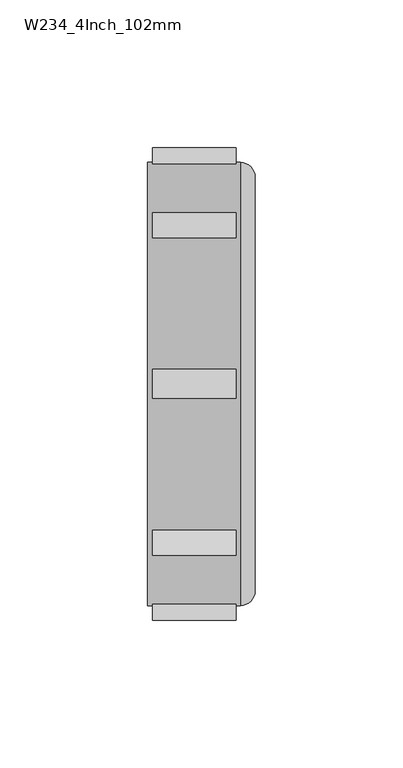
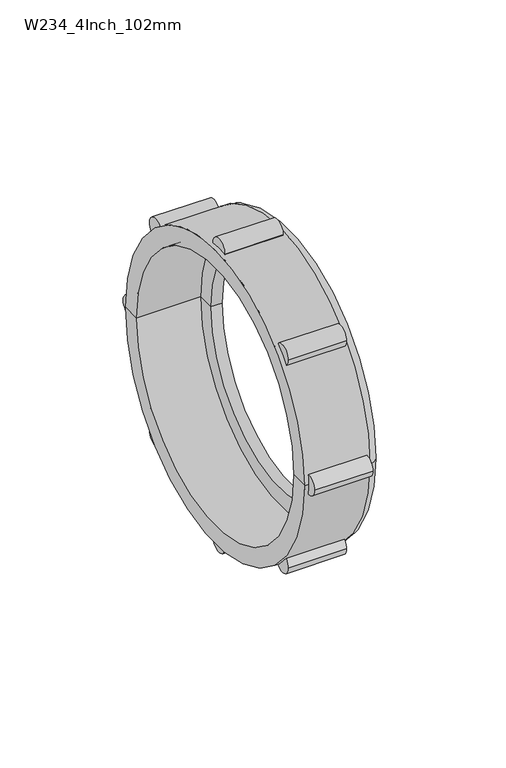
"""IFC4 building model written with IfcOpenShell, lengths in millimetres: pipe fitting geometry, Durapipe_PipeFitting_VulcatheneMechanical_Nut_W23 : W234_4Inch_102mm."""

from ifc_helpers import new_model, si_unit, point, frame, frame_2d, origin, place, context, project, spatial, polyline, circle_curve, ellipse_curve, trimmed, segment, composite_curve, outline, extrude, source, transform, mapped, element, save
from ifc_brep_helpers import plane_surface, cylinder_surface, revolved_surface, advanced_brep


def w234_4inch_102mm_b929236d(model_context):
    return source(origin(), model_context, "Body", "SolidModel", [
        advanced_brep(
        [(-19.15, 75.0, 0.0), (12.35, 75.0, 0.0), (12.35, -75.0, 0.0), (-19.15, -75.0, 0.0), (-19.15, 66.0, 0.0), (-19.15, -66.0, 0.0), (17.35, 70.0, 0.0), (17.35, 57.5, 0.0), (17.35, -57.5, 0.0), (17.35, -70.0, 0.0), (11.85, 66.0, 0.0), (11.85, -66.0, 0.0), (11.85, 57.5, 0.0), (11.85, -57.5, 0.0)],
        [
            (0, 1),
            (1, 2, circle_curve(frame((12.35, 0.0, 0.0), z_axis=(-1.0, 0.0, 0.0), x_axis=(0.0, -1.0, 0.0)), 75.0)),
            (2, 3),
            (3, 0, circle_curve(frame((-19.15, 0.0, 0.0), z_axis=(1.0, 0.0, 0.0), x_axis=(0.0, -1.0, 0.0)), 75.0)),
            (2, 1, circle_curve(frame((12.35, 0.0, 0.0), z_axis=(-1.0, 0.0, 0.0), x_axis=(0.0, -1.0, 0.0)), 75.0)),
            (0, 3, circle_curve(frame((-19.15, 0.0, 0.0), z_axis=(1.0, 0.0, 0.0), x_axis=(0.0, -1.0, 0.0)), 75.0)),
            (4, 0),
            (3, 5),
            (5, 4, circle_curve(frame((-19.15, 0.0, 0.0), z_axis=(1.0, 0.0, 0.0), x_axis=(0.0, -1.0, 0.0)), 66.0)),
            (4, 5, circle_curve(frame((-19.15, 0.0, 0.0), z_axis=(1.0, 0.0, 0.0), x_axis=(0.0, -1.0, 0.0)), 66.0)),
            (6, 7),
            (7, 8, circle_curve(frame((17.35, 0.0, 0.0), z_axis=(-1.0, 0.0, 0.0), x_axis=(0.0, -1.0, 0.0)), 57.5)),
            (8, 9),
            (9, 6, circle_curve(frame((17.35, 0.0, 0.0), z_axis=(1.0, 0.0, 0.0), x_axis=(0.0, -1.0, 0.0)), 70.0)),
            (8, 7, circle_curve(frame((17.35, 0.0, 0.0), z_axis=(-1.0, 0.0, 0.0), x_axis=(0.0, -1.0, 0.0)), 57.5)),
            (6, 9, circle_curve(frame((17.35, 0.0, 0.0), z_axis=(1.0, 0.0, 0.0), x_axis=(0.0, -1.0, 0.0)), 70.0)),
            (1, 6, circle_curve(frame((12.35, 70.0, 0.0), z_axis=(0.0, 0.0, -1.0), x_axis=(1.0, 0.0, 0.0)), 5.0)),
            (9, 2, circle_curve(frame((12.35, -70.0, 0.0), z_axis=(0.0, 0.0, -1.0), x_axis=(1.0, 0.0, 0.0)), 5.0)),
            (10, 4),
            (5, 11),
            (11, 10, circle_curve(frame((11.85, 0.0, 0.0), z_axis=(1.0, 0.0, 0.0), x_axis=(0.0, -1.0, 0.0)), 66.0)),
            (10, 11, circle_curve(frame((11.85, 0.0, 0.0), z_axis=(1.0, 0.0, 0.0), x_axis=(0.0, -1.0, 0.0)), 66.0)),
            (12, 10),
            (11, 13),
            (13, 12, circle_curve(frame((11.85, 0.0, 0.0), z_axis=(1.0, 0.0, 0.0), x_axis=(0.0, -1.0, 0.0)), 57.5)),
            (12, 13, circle_curve(frame((11.85, 0.0, 0.0), z_axis=(1.0, 0.0, 0.0), x_axis=(0.0, -1.0, 0.0)), 57.5)),
            (7, 12),
            (13, 8),
        ],
        [
            cylinder_surface(frame((1578.1518184, 0.0, 0.0), z_axis=(-1.0, 0.0, 0.0), x_axis=(0.0, -1.0, 0.0)), 75.0),
            plane_surface(frame((-19.15, 0.0, 0.0), z_axis=(-1.0, 0.0, 0.0), x_axis=(0.0, -1.0, 0.0))),
            plane_surface(frame((17.35, 0.0, 0.0), z_axis=(1.0, 0.0, 0.0), x_axis=(0.0, -1.0, 0.0))),
            revolved_surface(trimmed(ellipse_curve(frame((12.35, -70.0, 0.0), z_axis=(0.0, 0.0, -1.0), x_axis=(1.0, 0.0, 0.0)), 5.0, 5.0), [point((17.35, -70.0, 0.0))], [point((12.35, -75.0, 0.0))], True, "CARTESIAN"), (1578.1518184, 0.0, 0.0), (-1.0, 0.0, 0.0)),
            revolved_surface(polyline([(-19.15000000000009, -66.0, 0.0), (11.849999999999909, -66.0, 0.0)]), (1578.1518184, 0.0, 0.0), (-1.0, 0.0, 0.0)),
            plane_surface(frame((11.85, 0.0, 0.0), z_axis=(-1.0, 0.0, 0.0), x_axis=(0.0, -1.0, 0.0))),
            revolved_surface(polyline([(11.849999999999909, -57.5, 0.0), (17.34999999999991, -57.5, 0.0)]), (1578.1518184, 0.0, 0.0), (-1.0, 0.0, 0.0)),
        ],
        [
            (0, [[1, 2, 3, 4]]),
            (0, [[-3, 5, -1, 6]]),
            (1, [[7, -4, 8, 9]]),
            (1, [[-8, -6, -7, 10]]),
            (2, [[11, 12, 13, 14]]),
            (2, [[-13, 15, -11, 16]]),
            (3, [[17, -14, 18, -2]]),
            (3, [[-18, -16, -17, -5]]),
            (4, [[19, -9, 20, 21]]),
            (4, [[-20, -10, -19, 22]]),
            (5, [[23, -21, 24, 25]]),
            (5, [[-24, -22, -23, 26]]),
            (6, [[27, -25, 28, -12]]),
            (6, [[-28, -26, -27, -15]]),
        ],
    ),
        extrude(outline(composite_curve([segment(trimmed(circle_curve(frame_2d((0.0, 75.0)), 5.0), [point((5.0, 75.0))], [point((-5.0, 75.0))], False, "CARTESIAN"), True, "CONTINUOUS"), segment(trimmed(circle_curve(frame_2d((0.0, 75.0)), 5.0), [point((-5.0, 75.0))], [point((5.0, 75.0))], False, "CARTESIAN"), True, "CONTINUOUS")], self_intersect=False)), frame((-17.35, 0.0, 0.0), z_axis=(1.0, 0.0, 0.0), x_axis=(0.0, 1.0, 0.0)), (0.0, 0.0, 1.0), 28.2),
        extrude(outline(composite_curve([segment(trimmed(circle_curve(frame_2d((-53.0330086, 53.0330086)), 5.0), [point((-48.0330086, 53.0330086))], [point((-58.0330086, 53.0330086))], False, "CARTESIAN"), True, "CONTINUOUS"), segment(trimmed(circle_curve(frame_2d((-53.0330086, 53.0330086)), 5.0), [point((-58.0330086, 53.0330086))], [point((-48.0330086, 53.0330086))], False, "CARTESIAN"), True, "CONTINUOUS")], self_intersect=False)), frame((-17.35, 0.0, 0.0), z_axis=(1.0, 0.0, 0.0), x_axis=(0.0, 1.0, 0.0)), (0.0, 0.0, 1.0), 28.2),
        extrude(outline(composite_curve([segment(trimmed(circle_curve(frame_2d((-75.0, 0.0)), 5.0), [point((-70.0, 0.0))], [point((-80.0, 0.0))], False, "CARTESIAN"), True, "CONTINUOUS"), segment(trimmed(circle_curve(frame_2d((-75.0, 0.0)), 5.0), [point((-80.0, 0.0))], [point((-70.0, 0.0))], False, "CARTESIAN"), True, "CONTINUOUS")], self_intersect=False)), frame((-17.35, 0.0, 0.0), z_axis=(1.0, 0.0, 0.0), x_axis=(0.0, 1.0, 0.0)), (0.0, 0.0, 1.0), 28.2),
        extrude(outline(composite_curve([segment(trimmed(circle_curve(frame_2d((-53.0330086, -53.0330086)), 5.0), [point((-48.0330086, -53.0330086))], [point((-58.0330086, -53.0330086))], False, "CARTESIAN"), True, "CONTINUOUS"), segment(trimmed(circle_curve(frame_2d((-53.0330086, -53.0330086)), 5.0), [point((-58.0330086, -53.0330086))], [point((-48.0330086, -53.0330086))], False, "CARTESIAN"), True, "CONTINUOUS")], self_intersect=False)), frame((-17.35, 0.0, 0.0), z_axis=(1.0, 0.0, 0.0), x_axis=(0.0, 1.0, 0.0)), (0.0, 0.0, 1.0), 28.2),
        extrude(outline(composite_curve([segment(trimmed(circle_curve(frame_2d((0.0, -75.0)), 5.0), [point((5.0, -75.0))], [point((-5.0, -75.0))], False, "CARTESIAN"), True, "CONTINUOUS"), segment(trimmed(circle_curve(frame_2d((0.0, -75.0)), 5.0), [point((-5.0, -75.0))], [point((5.0, -75.0))], False, "CARTESIAN"), True, "CONTINUOUS")], self_intersect=False)), frame((-17.35, 0.0, 0.0), z_axis=(1.0, 0.0, 0.0), x_axis=(0.0, 1.0, 0.0)), (0.0, 0.0, 1.0), 28.2),
        extrude(outline(composite_curve([segment(trimmed(circle_curve(frame_2d((53.0330086, -53.0330086)), 5.0), [point((58.0330086, -53.0330086))], [point((48.0330086, -53.0330086))], False, "CARTESIAN"), True, "CONTINUOUS"), segment(trimmed(circle_curve(frame_2d((53.0330086, -53.0330086)), 5.0), [point((48.0330086, -53.0330086))], [point((58.0330086, -53.0330086))], False, "CARTESIAN"), True, "CONTINUOUS")], self_intersect=False)), frame((-17.35, 0.0, 0.0), z_axis=(1.0, 0.0, 0.0), x_axis=(0.0, 1.0, 0.0)), (0.0, 0.0, 1.0), 28.2),
        extrude(outline(composite_curve([segment(trimmed(circle_curve(frame_2d((75.0, 0.0)), 5.0), [point((80.0, 0.0))], [point((70.0, 0.0))], False, "CARTESIAN"), True, "CONTINUOUS"), segment(trimmed(circle_curve(frame_2d((75.0, 0.0)), 5.0), [point((70.0, 0.0))], [point((80.0, 0.0))], False, "CARTESIAN"), True, "CONTINUOUS")], self_intersect=False)), frame((-17.35, 0.0, 0.0), z_axis=(1.0, 0.0, 0.0), x_axis=(0.0, 1.0, 0.0)), (0.0, 0.0, 1.0), 28.2),
        extrude(outline(composite_curve([segment(trimmed(circle_curve(frame_2d((53.0330086, 53.0330086)), 5.0), [point((58.0330086, 53.0330086))], [point((48.0330086, 53.0330086))], False, "CARTESIAN"), True, "CONTINUOUS"), segment(trimmed(circle_curve(frame_2d((53.0330086, 53.0330086)), 5.0), [point((48.0330086, 53.0330086))], [point((58.0330086, 53.0330086))], False, "CARTESIAN"), True, "CONTINUOUS")], self_intersect=False)), frame((-17.35, 0.0, 0.0), z_axis=(1.0, 0.0, 0.0), x_axis=(0.0, 1.0, 0.0)), (0.0, 0.0, 1.0), 28.2),
    ])


if __name__ == "__main__":
    model = new_model("IFC4")
    model_context = context("Model", 3, world=origin())
    ifc_project = project(units=[si_unit("LENGTHUNIT", "METRE", prefix="MILLI")], contexts=[model_context])
    site = spatial("IfcSite", under=ifc_project)
    building = spatial("IfcBuilding", under=site)
    placement = place(None, origin())
    w234_4inch_102mm_shape = w234_4inch_102mm_b929236d(model_context)
    element("IfcPipeFitting", 1, ObjectType="Durapipe_PipeFitting_VulcatheneMechanical_Nut_W23 : W234_4Inch_102mm", at=placement, inside=building, context=model_context, shape_type="MappedRepresentation", body=[
        mapped(w234_4inch_102mm_shape, transform((0.0, 0.0, 0.0), x_axis=(1.0, 0.0, 0.0), y_axis=(0.0, 1.0, 0.0), z_axis=(0.0, 0.0, 1.0))),
    ])
    save(model, "model.ifc")
